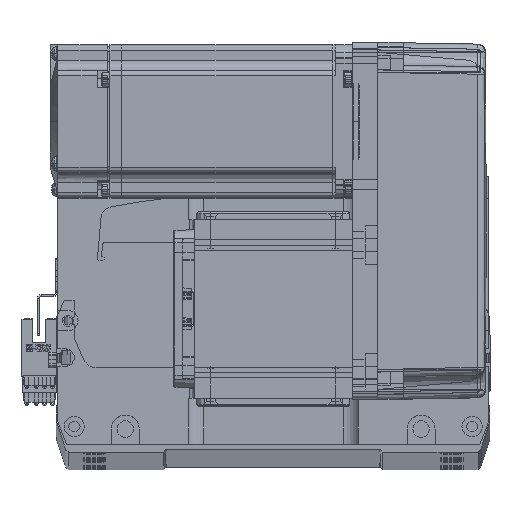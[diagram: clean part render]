
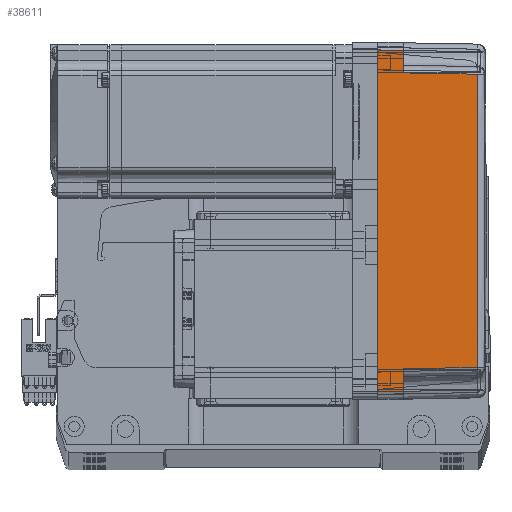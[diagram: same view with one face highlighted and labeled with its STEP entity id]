
A CAD part, top view. The second image highlights one B-rep face of the part: STEP entity #38611.
In plain terms, the highlighted planar face has unit normal (0.018, 0, 1) as drawn and (0, -1, 0.017) by its records, which use the part's own axes.
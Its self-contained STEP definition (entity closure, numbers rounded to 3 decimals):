
#471 = CARTESIAN_POINT ( 'NONE',  ( 58., -35.825, 10. ) ) ;
#545 = LINE ( 'NONE', #69987, #56485 ) ;
#2330 = DIRECTION ( 'NONE',  ( 0., -0.017, -1. ) ) ;
#2631 = VECTOR ( 'NONE', #56876, 1000. ) ;
#4099 = DIRECTION ( 'NONE',  ( -1., 0., 0. ) ) ;
#6198 = VECTOR ( 'NONE', #53792, 1000. ) ;
#8634 = ORIENTED_EDGE ( 'NONE', *, *, #73087, .T. ) ;
#10798 = CARTESIAN_POINT ( 'NONE',  ( -19.165, -35.316, 39.181 ) ) ;
#11899 = DIRECTION ( 'NONE',  ( -1., 0., 0. ) ) ;
#12252 = AXIS2_PLACEMENT_3D ( 'NONE', #31519, #60114, #2330 ) ;
#12352 = DIRECTION ( 'NONE',  ( -0.017, -0.017, -1. ) ) ;
#12600 = CARTESIAN_POINT ( 'NONE',  ( -57.495, -35.32, 38.985 ) ) ;
#13074 = VERTEX_POINT ( 'NONE', #37422 ) ;
#13852 = CARTESIAN_POINT ( 'NONE',  ( 67., -36., 0. ) ) ;
#16197 = ORIENTED_EDGE ( 'NONE', *, *, #40403, .T. ) ;
#21288 = CARTESIAN_POINT ( 'NONE',  ( -58., -35.825, 10. ) ) ;
#21351 = ORIENTED_EDGE ( 'NONE', *, *, #39306, .F. ) ;
#22137 = VERTEX_POINT ( 'NONE', #74841 ) ;
#22153 = CARTESIAN_POINT ( 'NONE',  ( -57.495, -35.32, 38.985 ) ) ;
#22168 = ORIENTED_EDGE ( 'NONE', *, *, #70476, .T. ) ;
#24289 = LINE ( 'NONE', #31840, #46860 ) ;
#24530 = VERTEX_POINT ( 'NONE', #38928 ) ;
#25247 = CARTESIAN_POINT ( 'NONE',  ( 66.826, -35.825, 10. ) ) ;
#26253 = CARTESIAN_POINT ( 'NONE',  ( 70., -35.825, 10. ) ) ;
#27165 = CARTESIAN_POINT ( 'NONE',  ( 19.165, -35.316, 39.181 ) ) ;
#27582 = VERTEX_POINT ( 'NONE', #471 ) ;
#27818 = LINE ( 'NONE', #73295, #37757 ) ;
#31450 = LINE ( 'NONE', #26253, #2631 ) ;
#31519 = CARTESIAN_POINT ( 'NONE',  ( 70., -36., 0. ) ) ;
#31840 = CARTESIAN_POINT ( 'NONE',  ( 58., -35.825, 10. ) ) ;
#32122 = VERTEX_POINT ( 'NONE', #21288 ) ;
#33001 = CARTESIAN_POINT ( 'NONE',  ( -66.959, -35.958, 2.39 ) ) ;
#34811 = LINE ( 'NONE', #33001, #58355 ) ;
#35816 = B_SPLINE_CURVE_WITH_KNOTS ( 'NONE', 3,
 ( #56015, #27165, #10798, #22153 ),
 .UNSPECIFIED., .F., .F.,
 ( 4, 4 ),
 ( 0., 1. ),
 .UNSPECIFIED. ) ;
#37422 = CARTESIAN_POINT ( 'NONE',  ( 57.495, -35.32, 38.985 ) ) ;
#37757 = VECTOR ( 'NONE', #4099, 1000. ) ;
#38313 = DIRECTION ( 'NONE',  ( 0.017, 0.017, 1. ) ) ;
#38611 = ADVANCED_FACE ( 'NONE', ( #61143 ), #41174, .T. ) ;
#38928 = CARTESIAN_POINT ( 'NONE',  ( 67., -36., 0. ) ) ;
#39306 = EDGE_CURVE ( 'NONE', #24530, #22137, #545, .T. ) ;
#40403 = EDGE_CURVE ( 'NONE', #59711, #32122, #74416, .T. ) ;
#41174 = PLANE ( 'NONE',  #12252 ) ;
#43349 = VERTEX_POINT ( 'NONE', #25247 ) ;
#46677 = EDGE_LOOP ( 'NONE', ( #8634, #72727, #62212, #22168, #16197, #60903, #57240, #21351 ) ) ;
#46860 = VECTOR ( 'NONE', #72293, 1000. ) ;
#48872 = CARTESIAN_POINT ( 'NONE',  ( -66.826, -35.825, 10. ) ) ;
#51738 = CARTESIAN_POINT ( 'NONE',  ( -57.495, -35.32, 38.985 ) ) ;
#53792 = DIRECTION ( 'NONE',  ( -0.017, 0.017, 1. ) ) ;
#54045 = LINE ( 'NONE', #13852, #6198 ) ;
#56015 = CARTESIAN_POINT ( 'NONE',  ( 57.495, -35.32, 38.985 ) ) ;
#56485 = VECTOR ( 'NONE', #11899, 1000. ) ;
#56876 = DIRECTION ( 'NONE',  ( -1., 0., 0. ) ) ;
#57240 = ORIENTED_EDGE ( 'NONE', *, *, #74395, .F. ) ;
#58355 = VECTOR ( 'NONE', #38313, 1000. ) ;
#59711 = VERTEX_POINT ( 'NONE', #51738 ) ;
#60114 = DIRECTION ( 'NONE',  ( 0., -1., 0.017 ) ) ;
#60903 = ORIENTED_EDGE ( 'NONE', *, *, #72844, .T. ) ;
#61143 = FACE_OUTER_BOUND ( 'NONE', #46677, .T. ) ;
#62212 = ORIENTED_EDGE ( 'NONE', *, *, #69825, .T. ) ;
#66232 = VECTOR ( 'NONE', #12352, 1000. ) ;
#69825 = EDGE_CURVE ( 'NONE', #27582, #13074, #24289, .T. ) ;
#69987 = CARTESIAN_POINT ( 'NONE',  ( 0., -36., 0. ) ) ;
#70476 = EDGE_CURVE ( 'NONE', #13074, #59711, #35816, .T. ) ;
#72293 = DIRECTION ( 'NONE',  ( -0.017, 0.017, 1. ) ) ;
#72727 = ORIENTED_EDGE ( 'NONE', *, *, #72851, .T. ) ;
#72844 = EDGE_CURVE ( 'NONE', #32122, #74878, #31450, .T. ) ;
#72851 = EDGE_CURVE ( 'NONE', #43349, #27582, #27818, .T. ) ;
#73087 = EDGE_CURVE ( 'NONE', #24530, #43349, #54045, .T. ) ;
#73295 = CARTESIAN_POINT ( 'NONE',  ( 70., -35.825, 10. ) ) ;
#74395 = EDGE_CURVE ( 'NONE', #22137, #74878, #34811, .T. ) ;
#74416 = LINE ( 'NONE', #12600, #66232 ) ;
#74841 = CARTESIAN_POINT ( 'NONE',  ( -67., -36., 0. ) ) ;
#74878 = VERTEX_POINT ( 'NONE', #48872 ) ;
